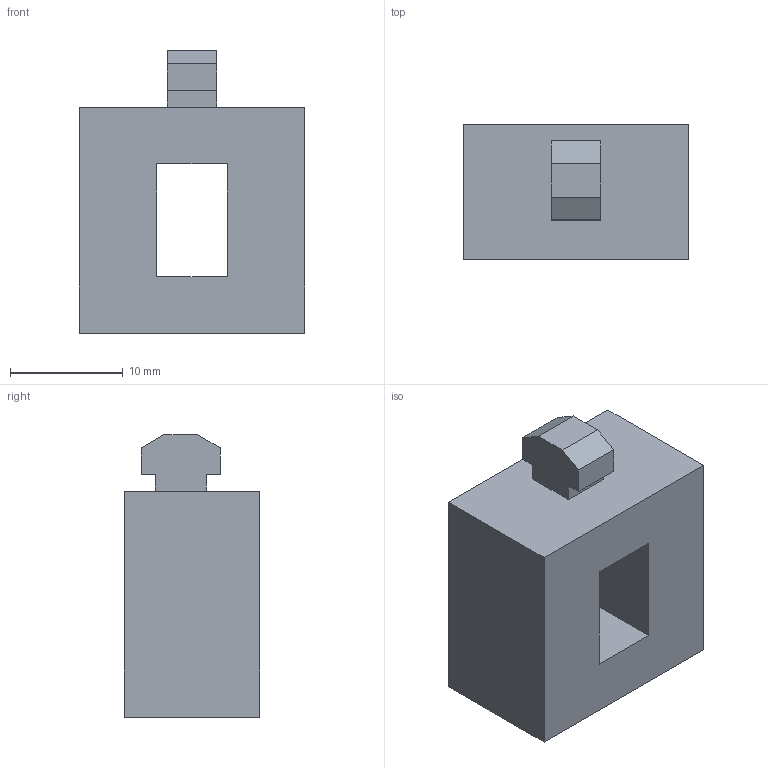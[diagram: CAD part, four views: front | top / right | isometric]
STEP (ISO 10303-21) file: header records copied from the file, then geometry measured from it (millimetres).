
FILE_DESCRIPTION(/* description */ ('Unknown'),/* implementation_level */ '2;1');
FILE_NAME(/* name */ 'IM0412',/* time_stamp */ '2026-09-17T11:03:55+08:00',/* author */ ('Unknown'),/* organization */ ('Unknown'),/* preprocessor_version */ 'ST-DEVELOPER v16.7',/* originating_system */ 'DEX',/* authorisation */ $);
FILE_SCHEMA (('AUTOMOTIVE_DESIGN {1 0 10303 214 3 1 1}'));
Length unit declared in the file: millimetre
Products named in the file (1): IM0412
Bounding box: 20 x 12 x 25 mm (x, y, z)
Volume: 4183.3 mm3; surface area: 2141.2 mm2
Topology: 1 solids, 1 shells, 21 faces, 54 edges, 36 vertices
Faces by surface type: plane 21
Entity records: 662 total; most frequent: CARTESIAN_POINT 112, ORIENTED_EDGE 108, DIRECTION 98, EDGE_CURVE 54, LINE 54, VECTOR 54, VERTEX_POINT 36, EDGE_LOOP 24
